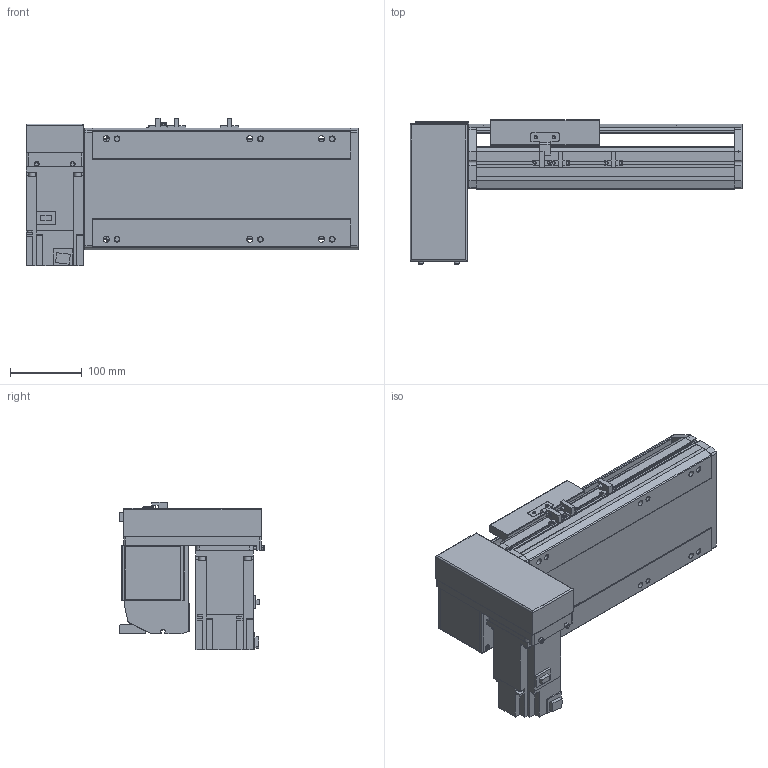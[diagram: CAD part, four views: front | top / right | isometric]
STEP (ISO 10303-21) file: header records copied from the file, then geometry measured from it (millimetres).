
FILE_DESCRIPTION(/* description */ ('STEP AP214'),/* implementation_level */ '2;1');
FILE_NAME(/* name */ 'PBS170-P40-S100-RD-T75-C1-N(0)',/* time_stamp */ '2022-06-08T07:33:53+02:00',/* author */ ('License CC BY-ND 4.0'),/* organization */ ('CADENAS'),/* preprocessor_version */ 'ST-DEVELOPER v18.102',/* originating_system */ 'PARTsolutions',/* authorisation */ ' ');
FILE_SCHEMA (('AUTOMOTIVE_DESIGN {1 0 10303 214 3 1 1}'));
Length unit declared in the file: millimetre
Products named in the file (7): PBS170-P40-S100-RD-T75-C1-N(0); PBS170_sensor; PBS170_plant; PBS170_sliser; T75-p1; PBS170T-RD_motors; PBS170-S100()_body
Assembly tree (8 placements, depth 2):
  PBS170-P40-S100-RD-T75-C1-N(0)
    PBS170_sensor  x3
    PBS170_plant
    PBS170_sliser
    T75-p1
    PBS170T-RD_motors
    PBS170-S100()_body
Bounding box: 463 x 201 x 205.3 mm (x, y, z)
Volume: 4576573.4 mm3; surface area: 666894.8 mm2
Topology: 8 solids, 8 shells, 1002 faces, 2675 edges, 1744 vertices
Faces by surface type: plane 657, cylinder 299, cone 36, sphere 8, torus 2
Full cylindrical faces by diameter (mm): 3.242 x4, 4 x2, 4.4 x4, 4.5 x6, 4.917 x4, 6 x9, 6.647 x14, 7 x2, 7.5 x4, 8 x8, 8.5 x6, 10 x4, 10.5 x6, 11 x2, 30 x2, 40 x1, 70 x1
Entity records: 28828 total; most frequent: CARTESIAN_POINT 5153, DIRECTION 4950, ORIENTED_EDGE 4728, EDGE_CURVE 2364, AXIS2_PLACEMENT_3D 1687, VERTEX_POINT 1610, LINE 1576, VECTOR 1576
